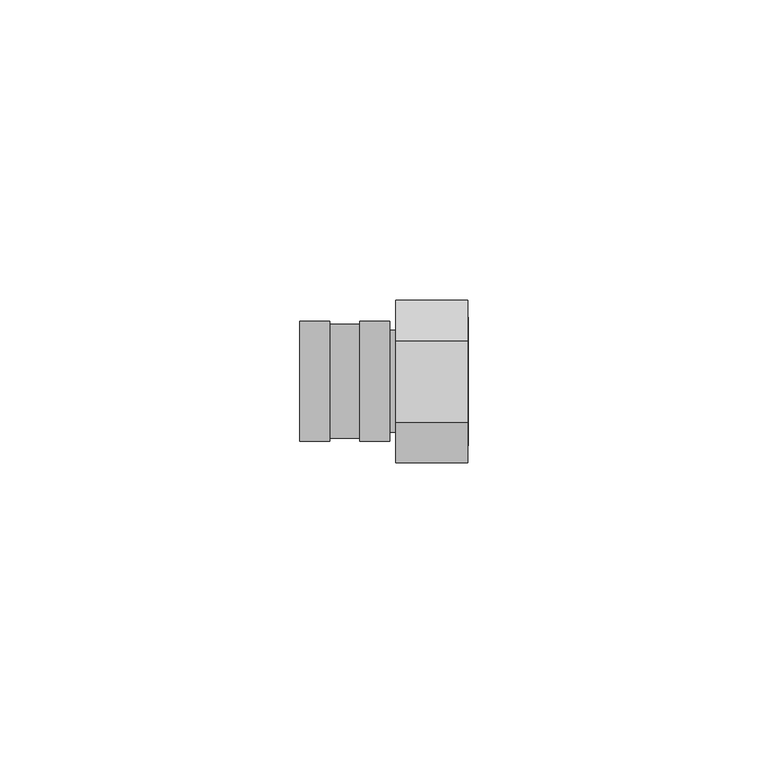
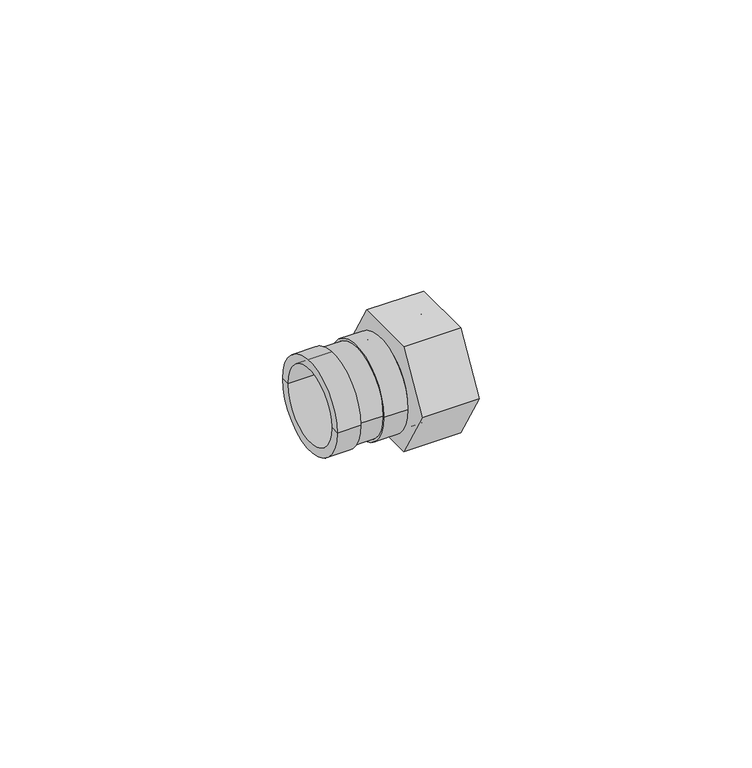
"""IFC4 building model written with IfcOpenShell, lengths in millimetres: pipe fitting geometry, Astra - Conexão Móvel - KRM : Astra - Conexão Móvel - KRM."""

from ifc_helpers import new_model, si_unit, point, frame, origin, origin_2d, place, context, project, spatial, polyline, circle_curve, trimmed, segment, composite_curve, outline, extrude, source, transform, mapped, element, save
from ifc_brep_helpers import plane_surface, cylinder_surface, revolved_surface, advanced_brep


def pipe_fitting_f05f0313(model_context):
    return source(origin(), model_context, "Body", "SolidModel", [
        extrude(outline(composite_curve([segment(trimmed(circle_curve(origin_2d(), 9.5), [point((-9.5, 0.0))], [point((9.5, 0.0))], False, "CARTESIAN"), True, "CONTINUOUS"), segment(trimmed(circle_curve(origin_2d(), 9.5), [point((9.5, 0.0))], [point((-9.5, 0.0))], False, "CARTESIAN"), True, "CONTINUOUS")], self_intersect=False), holes=[composite_curve([segment(trimmed(circle_curve(origin_2d(), 6.0), [point((-6.0, 0.0))], [point((6.0, 0.0))], True, "CARTESIAN"), True, "CONTINUOUS"), segment(trimmed(circle_curve(origin_2d(), 6.0), [point((6.0, 0.0))], [point((-6.0, 0.0))], True, "CARTESIAN"), True, "CONTINUOUS")], self_intersect=False)]), frame((3.0, 0.0, 0.0), z_axis=(1.0, 0.0, 0.0), x_axis=(0.0, 1.0, 0.0)), (0.0, 0.0, 1.0), 2.0),
        advanced_brep(
        [(-15.0, -8.15, 0.0), (-15.0, 8.15, 0.0), (-15.0, 10.0, 0.0), (-15.0, -10.0, 0.0), (0.0, -8.15, 0.0), (0.0, 8.15, 0.0), (0.0, -10.0, 0.0), (0.0, 10.0, 0.0), (-10.0, 10.0, 0.0), (-10.0, -10.0, 0.0), (-5.0, -10.0, 0.0), (-5.0, 10.0, 0.0), (-10.0, 9.5, 0.0), (-10.0, -9.5, 0.0), (-5.0, 9.5, 0.0), (-5.0, -9.5, 0.0)],
        [
            (0, 1, circle_curve(frame((-15.0, 0.0, 0.0), z_axis=(1.0, 0.0, 0.0), x_axis=(0.0, 1.0, 0.0)), 8.15)),
            (1, 2),
            (2, 3, circle_curve(frame((-15.0, 0.0, 0.0), z_axis=(-1.0, 0.0, 0.0), x_axis=(0.0, 1.0, 0.0)), 10.0)),
            (3, 0),
            (1, 0, circle_curve(frame((-15.0, 0.0, 0.0), z_axis=(1.0, 0.0, 0.0), x_axis=(0.0, 1.0, 0.0)), 8.15)),
            (3, 2, circle_curve(frame((-15.0, 0.0, 0.0), z_axis=(-1.0, 0.0, 0.0), x_axis=(0.0, 1.0, 0.0)), 10.0)),
            (0, 4),
            (4, 5, circle_curve(frame((0.0, 0.0, 0.0), z_axis=(1.0, 0.0, 0.0), x_axis=(0.0, 1.0, 0.0)), 8.15)),
            (5, 1),
            (5, 4, circle_curve(frame((0.0, 0.0, 0.0), z_axis=(1.0, 0.0, 0.0), x_axis=(0.0, 1.0, 0.0)), 8.15)),
            (4, 6),
            (6, 7, circle_curve(frame((0.0, 0.0, 0.0), z_axis=(1.0, 0.0, 0.0), x_axis=(0.0, 1.0, 0.0)), 10.0)),
            (7, 5),
            (7, 6, circle_curve(frame((0.0, 0.0, 0.0), z_axis=(1.0, 0.0, 0.0), x_axis=(0.0, 1.0, 0.0)), 10.0)),
            (2, 8),
            (8, 9, circle_curve(frame((-10.0, 0.0, 0.0), z_axis=(-1.0, 0.0, 0.0), x_axis=(0.0, 1.0, 0.0)), 10.0)),
            (9, 3),
            (6, 10),
            (10, 11, circle_curve(frame((-5.0, 0.0, 0.0), z_axis=(1.0, 0.0, 0.0), x_axis=(0.0, 1.0, 0.0)), 10.0)),
            (11, 7),
            (9, 8, circle_curve(frame((-10.0, 0.0, 0.0), z_axis=(-1.0, 0.0, 0.0), x_axis=(0.0, 1.0, 0.0)), 10.0)),
            (11, 10, circle_curve(frame((-5.0, 0.0, 0.0), z_axis=(1.0, 0.0, 0.0), x_axis=(0.0, 1.0, 0.0)), 10.0)),
            (12, 13, circle_curve(frame((-10.0, 0.0, 0.0), z_axis=(-1.0, 0.0, 0.0), x_axis=(0.0, 1.0, 0.0)), 9.5)),
            (13, 9),
            (8, 12),
            (13, 12, circle_curve(frame((-10.0, 0.0, 0.0), z_axis=(-1.0, 0.0, 0.0), x_axis=(0.0, 1.0, 0.0)), 9.5)),
            (12, 14),
            (14, 15, circle_curve(frame((-5.0, 0.0, 0.0), z_axis=(-1.0, 0.0, 0.0), x_axis=(0.0, 1.0, 0.0)), 9.5)),
            (15, 13),
            (15, 14, circle_curve(frame((-5.0, 0.0, 0.0), z_axis=(-1.0, 0.0, 0.0), x_axis=(0.0, 1.0, 0.0)), 9.5)),
            (14, 11),
            (10, 15),
        ],
        [
            plane_surface(frame((-15.0, 0.0, 0.0), z_axis=(-1.0, 0.0, 0.0), x_axis=(0.0, 1.0, 0.0))),
            revolved_surface(polyline([(-15.0, 8.15, 0.0), (0.0, 8.15, 0.0)]), (-15.0, 0.0, 0.0), (-1.0, 0.0, 0.0)),
            plane_surface(frame((0.0, 0.0, 0.0), z_axis=(1.0, 0.0, 0.0), x_axis=(0.0, 1.0, 0.0))),
            cylinder_surface(frame((-15.0, 0.0, 0.0), z_axis=(-1.0, 0.0, 0.0), x_axis=(0.0, 1.0, 0.0)), 10.0),
            plane_surface(frame((-10.0, 0.0, 0.0), z_axis=(1.0, 0.0, 0.0), x_axis=(0.0, 1.0, 0.0))),
            cylinder_surface(frame((-15.0, 0.0, 0.0), z_axis=(-1.0, 0.0, 0.0), x_axis=(0.0, 1.0, 0.0)), 9.5),
            plane_surface(frame((-5.0, 0.0, 0.0), z_axis=(-1.0, 0.0, 0.0), x_axis=(0.0, 1.0, 0.0))),
        ],
        [
            (0, [[1, 2, 3, 4]]),
            (0, [[-2, 5, -4, 6]]),
            (1, [[-1, 7, 8, 9]]),
            (1, [[-5, -9, 10, -7]]),
            (2, [[-8, 11, 12, 13]]),
            (2, [[-10, -13, 14, -11]]),
            (3, [[-3, 15, 16, 17]]),
            (3, [[-12, 18, 19, 20]]),
            (3, [[-6, -17, 21, -15]]),
            (3, [[-14, -20, 22, -18]]),
            (4, [[23, 24, -16, 25]]),
            (4, [[26, -25, -21, -24]]),
            (5, [[-23, 27, 28, 29]]),
            (5, [[-26, -29, 30, -27]]),
            (6, [[-28, 31, -19, 32]]),
            (6, [[-30, -32, -22, -31]]),
        ],
    ),
        advanced_brep(
        [(13.0, -13.5677313, 0.0), (13.0, -6.7838657, -11.75), (13.0, 6.7838657, -11.75), (13.0, 13.5677313, 0.0), (13.0, 6.7838657, 11.75), (13.0, -6.7838657, 11.75), (13.0, 10.7, 0.0), (13.0, -10.7, 0.0), (1.0, -13.5677313, 0.0), (1.0, -6.7838657, 11.75), (1.0, 6.7838657, 11.75), (1.0, 13.5677313, 0.0), (1.0, 6.7838657, -11.75), (1.0, -6.7838657, -11.75), (3.0, -9.5, 0.0), (11.8, -9.5, 0.0), (11.8, 9.5, 0.0), (3.0, 9.5, 0.0), (3.0, 0.0, 0.0)],
        [
            (0, 1),
            (1, 2),
            (2, 3),
            (3, 4),
            (4, 5),
            (5, 0),
            (6, 7, circle_curve(frame((13.0, 0.0, 0.0), z_axis=(-1.0, 0.0, 0.0), x_axis=(0.0, 1.0, 0.0)), 10.7)),
            (7, 6, circle_curve(frame((13.0, 0.0, 0.0), z_axis=(-1.0, 0.0, 0.0), x_axis=(0.0, 1.0, 0.0)), 10.7)),
            (8, 9),
            (9, 10),
            (10, 11),
            (11, 12),
            (12, 13),
            (13, 8),
            (0, 8),
            (13, 1),
            (12, 2),
            (11, 3),
            (10, 4),
            (9, 5),
            (14, 15),
            (15, 16, circle_curve(frame((11.8, 0.0, 0.0), z_axis=(1.0, 0.0, 0.0), x_axis=(0.0, 1.0, 0.0)), 9.5)),
            (16, 17),
            (17, 14, circle_curve(frame((3.0, 0.0, 0.0), z_axis=(-1.0, 0.0, 0.0), x_axis=(0.0, 1.0, 0.0)), 9.5)),
            (14, 17, circle_curve(frame((3.0, 0.0, 0.0), z_axis=(-1.0, 0.0, 0.0), x_axis=(0.0, 1.0, 0.0)), 9.5)),
            (16, 15, circle_curve(frame((11.8, 0.0, 0.0), z_axis=(1.0, 0.0, 0.0), x_axis=(0.0, 1.0, 0.0)), 9.5)),
            (17, 18),
            (18, 14),
            (15, 7),
            (6, 16),
        ],
        [
            plane_surface(frame((13.0, -13.5677313, 0.0), z_axis=(1.0, 0.0, 0.0), x_axis=(0.0, 0.49999999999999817, -0.8660254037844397))),
            plane_surface(frame((1.0, -13.5677313, 0.0), z_axis=(-1.0, 0.0, 0.0), x_axis=(0.0, -0.49999999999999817, 0.8660254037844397))),
            plane_surface(frame((13.0, -13.5677313, 0.0), z_axis=(0.0, -0.8660254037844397, -0.49999999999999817), x_axis=(-1.0, 0.0, 0.0))),
            plane_surface(frame((13.0, -6.7838657, -11.75), z_axis=(0.0, 0.0, -1.0), x_axis=(-1.0, 0.0, 0.0))),
            plane_surface(frame((13.0, 6.7838657, -11.75), z_axis=(0.0, 0.8660254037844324, -0.5000000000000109), x_axis=(-1.0, 0.0, 0.0))),
            plane_surface(frame((13.0, 13.5677313, 0.0), z_axis=(0.0, 0.8660254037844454, 0.49999999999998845), x_axis=(-1.0, 0.0, 0.0))),
            plane_surface(frame((13.0, 6.7838657, 11.75), z_axis=(0.0, 0.0, 1.0), x_axis=(-1.0, 0.0, 0.0))),
            plane_surface(frame((13.0, -6.7838657, 11.75), z_axis=(0.0, -0.8660254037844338, 0.5000000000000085), x_axis=(-1.0, 0.0, 0.0))),
            revolved_surface(polyline([(3.0, 9.5, 0.0), (11.8, 9.5, 0.0)]), (5.0, 0.0, 0.0), (-1.0, 0.0, 0.0)),
            plane_surface(frame((3.0, 0.0, 0.0), z_axis=(1.0, 0.0, 0.0), x_axis=(0.0, 1.0, 0.0))),
            revolved_surface(polyline([(11.8, 9.5, 0.0), (13.0, 10.7, 0.0)]), (5.0, 0.0, 0.0), (-1.0, 0.0, 0.0)),
        ],
        [
            (0, [[1, 2, 3, 4, 5, 6], [7, 8]]),
            (1, [[9, 10, 11, 12, 13, 14]]),
            (2, [[-1, 15, -14, 16]]),
            (3, [[-2, -16, -13, 17]]),
            (4, [[-3, -17, -12, 18]]),
            (5, [[-4, -18, -11, 19]]),
            (6, [[-5, -19, -10, 20]]),
            (7, [[-6, -20, -9, -15]]),
            (8, [[21, 22, 23, 24]]),
            (8, [[-21, 25, -23, 26]]),
            (9, [[-24, 27, 28]]),
            (9, [[-25, -28, -27]]),
            (10, [[-22, 29, -7, 30]]),
            (10, [[-26, -30, -8, -29]]),
        ],
    ),
        advanced_brep(
        [(1.0, -8.5, 0.0), (1.0, 8.5, 0.0), (1.0, 0.0, 0.0), (0.0, -8.5, 0.0), (0.0, 8.5, 0.0), (0.0, 0.0, 0.0)],
        [
            (0, 1, circle_curve(frame((1.0, 0.0, 0.0), z_axis=(1.0, 0.0, 0.0), x_axis=(0.0, 1.0, 0.0)), 8.5)),
            (1, 2),
            (2, 0),
            (1, 0, circle_curve(frame((1.0, 0.0, 0.0), z_axis=(1.0, 0.0, 0.0), x_axis=(0.0, 1.0, 0.0)), 8.5)),
            (3, 4, circle_curve(frame((0.0, 0.0, 0.0), z_axis=(1.0, 0.0, 0.0), x_axis=(0.0, 1.0, 0.0)), 8.5)),
            (4, 1),
            (0, 3),
            (4, 3, circle_curve(frame((0.0, 0.0, 0.0), z_axis=(1.0, 0.0, 0.0), x_axis=(0.0, 1.0, 0.0)), 8.5)),
            (5, 4),
            (3, 5),
        ],
        [
            plane_surface(frame((1.0, 0.0, 0.0), z_axis=(1.0, 0.0, 0.0), x_axis=(0.0, 1.0, 0.0))),
            cylinder_surface(frame((0.0, 0.0, 0.0), z_axis=(-1.0, 0.0, 0.0), x_axis=(0.0, 1.0, 0.0)), 8.5),
            plane_surface(frame((0.0, 0.0, 0.0), z_axis=(-1.0, 0.0, 0.0), x_axis=(0.0, 1.0, 0.0))),
        ],
        [
            (0, [[1, 2, 3]]),
            (0, [[4, -3, -2]]),
            (1, [[5, 6, -1, 7]]),
            (1, [[8, -7, -4, -6]]),
            (2, [[9, -5, 10]]),
            (2, [[-10, -8, -9]]),
        ],
    ),
    ])


if __name__ == "__main__":
    model = new_model("IFC4")
    model_context = context("Model", 3, world=origin())
    ifc_project = project(units=[si_unit("LENGTHUNIT", "METRE", prefix="MILLI")], contexts=[model_context])
    site = spatial("IfcSite", under=ifc_project)
    building = spatial("IfcBuilding", under=site)
    placement = place(None, origin())
    pipe_fitting_shape = pipe_fitting_f05f0313(model_context)
    element("IfcPipeFitting", 1, ObjectType="Astra - Conexão Móvel - KRM : Astra - Conexão Móvel - KRM", at=placement, inside=building, context=model_context, shape_type="MappedRepresentation", body=[
        mapped(pipe_fitting_shape, transform((0.0, 0.0, 0.0), x_axis=(1.0, 0.0, 0.0), y_axis=(0.0, 1.0, 0.0), z_axis=(0.0, 0.0, 1.0))),
    ])
    save(model, "model.ifc")
